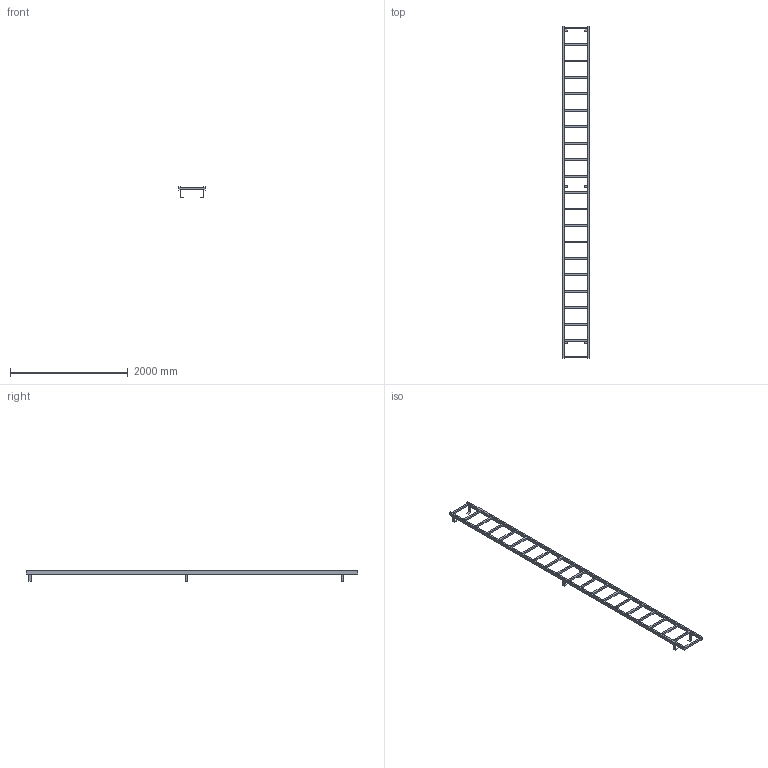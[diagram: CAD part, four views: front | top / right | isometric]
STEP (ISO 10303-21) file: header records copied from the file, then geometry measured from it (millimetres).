
FILE_DESCRIPTION((''),'2;1');
FILE_NAME('017_000109','2017-06-19T',('set'),('HUBER SE'),'PRO/ENGINEER BY PARAMETRIC TECHNOLOGY CORPORATION, 2015280','PRO/ENGINEER BY PARAMETRIC TECHNOLOGY CORPORATION, 2015280','');
FILE_SCHEMA(('CONFIG_CONTROL_DESIGN'));
Length unit declared in the file: millimetre
Products named in the file (1): 017_000109
Bounding box: 450 x 5650 x 178.5 mm (x, y, z)
Volume: 23759940 mm3; surface area: 2918452 mm2
Topology: 1 solids, 1 shells, 142 faces, 517 edges, 373 vertices
Faces by surface type: plane 142
Entity records: 5418 total; most frequent: CARTESIAN_POINT 1094, ORIENTED_EDGE 832, DIRECTION 798, VECTOR 470, LINE 470, EDGE_CURVE 416, VERTEX_POINT 272, EDGE_LOOP 178
